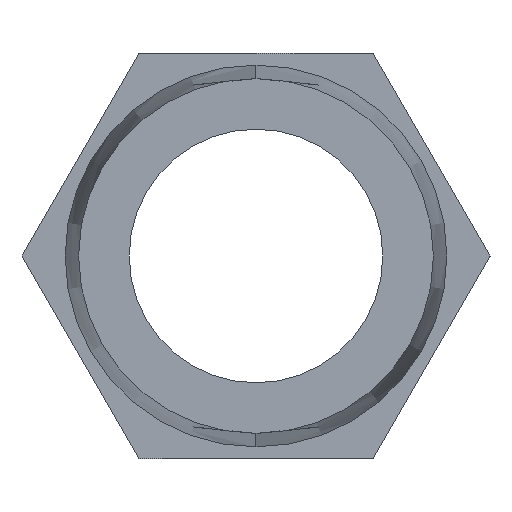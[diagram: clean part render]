
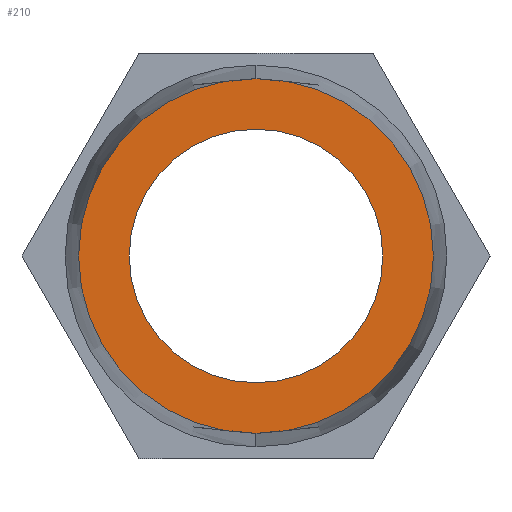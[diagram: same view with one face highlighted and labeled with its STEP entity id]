
A CAD part, left-side view. The second image highlights one B-rep face of the part: STEP entity #210.
In plain terms, the highlighted planar face has unit normal (-1, 0, 0).
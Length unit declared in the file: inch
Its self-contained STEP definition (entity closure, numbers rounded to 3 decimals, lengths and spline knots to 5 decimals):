
#10 = DIRECTION ( 'NONE',  ( 1., 0., 0. ) ) ;
#13 = CIRCLE ( 'NONE', #380, 0.18819 ) ;
#14 = VERTEX_POINT ( 'NONE', #424 ) ;
#69 = DIRECTION ( 'NONE',  ( -1., 0., 0. ) ) ;
#74 = DIRECTION ( 'NONE',  ( 0., 0., 1. ) ) ;
#76 = CIRCLE ( 'NONE', #508, 0.18819 ) ;
#98 = CARTESIAN_POINT ( 'NONE',  ( 0., 0., 0.1345 ) ) ;
#100 = DIRECTION ( 'NONE',  ( 1., 0., 0. ) ) ;
#105 = ORIENTED_EDGE ( 'NONE', *, *, #318, .T. ) ;
#106 = AXIS2_PLACEMENT_3D ( 'NONE', #292, #100, #74 ) ;
#128 = AXIS2_PLACEMENT_3D ( 'NONE', #503, #10, #221 ) ;
#138 = CIRCLE ( 'NONE', #128, 0.1345 ) ;
#191 = VERTEX_POINT ( 'NONE', #98 ) ;
#196 = EDGE_CURVE ( 'NONE', #14, #191, #563, .T. ) ;
#210 = ADVANCED_FACE ( 'NONE', ( #311, #265 ), #339, .F. ) ;
#211 = DIRECTION ( 'NONE',  ( 0., 0., 1. ) ) ;
#213 = ORIENTED_EDGE ( 'NONE', *, *, #196, .T. ) ;
#217 = CARTESIAN_POINT ( 'NONE',  ( 0., 0., 0. ) ) ;
#221 = DIRECTION ( 'NONE',  ( 0., 0., 1. ) ) ;
#224 = EDGE_CURVE ( 'NONE', #537, #350, #13, .T. ) ;
#243 = CARTESIAN_POINT ( 'NONE',  ( 0., 0., 0. ) ) ;
#265 = FACE_BOUND ( 'NONE', #480, .T. ) ;
#292 = CARTESIAN_POINT ( 'NONE',  ( 0., 0., 0. ) ) ;
#293 = DIRECTION ( 'NONE',  ( 0., 0., -1. ) ) ;
#311 = FACE_OUTER_BOUND ( 'NONE', #421, .T. ) ;
#318 = EDGE_CURVE ( 'NONE', #191, #14, #138, .T. ) ;
#339 = PLANE ( 'NONE',  #422 ) ;
#346 = ORIENTED_EDGE ( 'NONE', *, *, #383, .T. ) ;
#350 = VERTEX_POINT ( 'NONE', #419 ) ;
#380 = AXIS2_PLACEMENT_3D ( 'NONE', #217, #547, #211 ) ;
#383 = EDGE_CURVE ( 'NONE', #350, #537, #76, .T. ) ;
#389 = CARTESIAN_POINT ( 'NONE',  ( 0., 0., -0.18819 ) ) ;
#416 = CARTESIAN_POINT ( 'NONE',  ( 0., 0., 0.18819 ) ) ;
#419 = CARTESIAN_POINT ( 'NONE',  ( 0., 0., -0.18819 ) ) ;
#421 = EDGE_LOOP ( 'NONE', ( #346, #528 ) ) ;
#422 = AXIS2_PLACEMENT_3D ( 'NONE', #389, #527, #293 ) ;
#424 = CARTESIAN_POINT ( 'NONE',  ( 0., 0., -0.1345 ) ) ;
#480 = EDGE_LOOP ( 'NONE', ( #105, #213 ) ) ;
#503 = CARTESIAN_POINT ( 'NONE',  ( 0., 0., 0. ) ) ;
#508 = AXIS2_PLACEMENT_3D ( 'NONE', #243, #69, #573 ) ;
#527 = DIRECTION ( 'NONE',  ( 1., 0., 0. ) ) ;
#528 = ORIENTED_EDGE ( 'NONE', *, *, #224, .T. ) ;
#537 = VERTEX_POINT ( 'NONE', #416 ) ;
#547 = DIRECTION ( 'NONE',  ( -1., 0., 0. ) ) ;
#563 = CIRCLE ( 'NONE', #106, 0.1345 ) ;
#573 = DIRECTION ( 'NONE',  ( 0., 0., 1. ) ) ;
